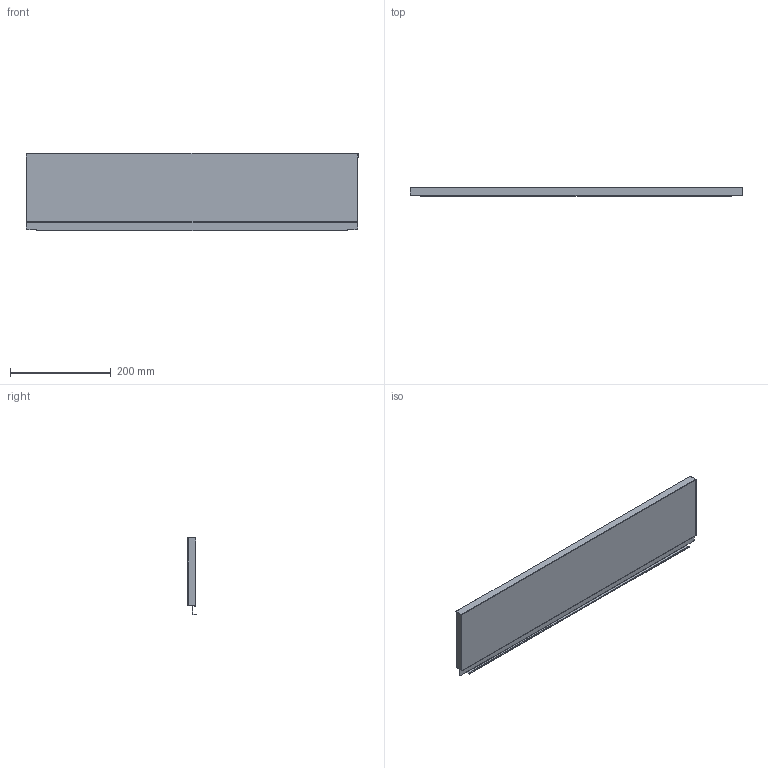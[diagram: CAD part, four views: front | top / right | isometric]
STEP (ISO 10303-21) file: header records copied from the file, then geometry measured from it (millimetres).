
FILE_DESCRIPTION (( 'STEP AP214' ), '1' );
FILE_NAME ('_STRW_H154_KAB_750.step', '2010-08-24T14:40:37', ( 'grass' ), ( '' ), 'SwSTEP 2.0', 'SolidWorks 2009', '' );
FILE_SCHEMA (( 'AUTOMOTIVE_DESIGN' ));
Length unit declared in the file: millimetre
Products named in the file (1): _STRW_H154_KAB_750
Bounding box: 660 x 17 x 154.14 mm (x, y, z)
Volume: 99637.7 mm3; surface area: 250518.6 mm2
Topology: 1 solids, 1 shells, 76 faces, 214 edges, 140 vertices
Faces by surface type: plane 54, cylinder 22
Entity records: 2472 total; most frequent: CARTESIAN_POINT 431, ORIENTED_EDGE 428, DIRECTION 412, EDGE_CURVE 214, LINE 170, VECTOR 170, VERTEX_POINT 140, AXIS2_PLACEMENT_3D 121
